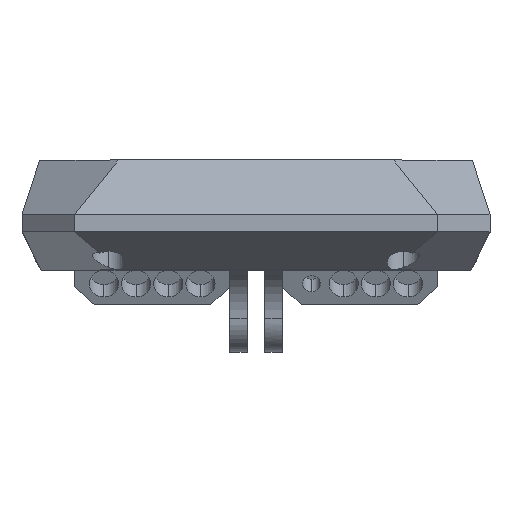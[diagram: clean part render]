
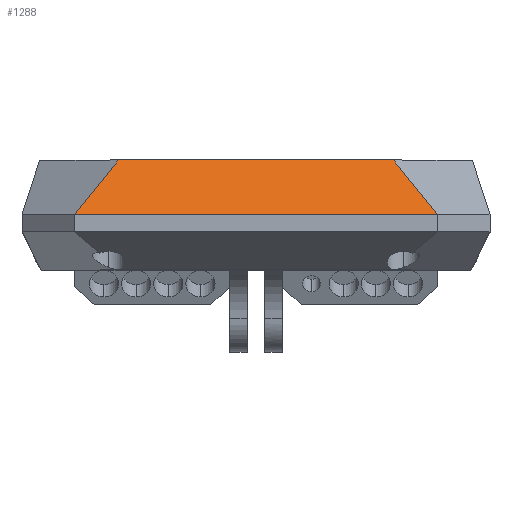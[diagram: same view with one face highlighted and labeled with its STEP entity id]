
A CAD part, top view. The second image highlights one B-rep face of the part: STEP entity #1288.
In plain terms, the highlighted planar face has unit normal (0, 0.73, 0.683).
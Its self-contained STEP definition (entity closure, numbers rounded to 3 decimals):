
#134 = VERTEX_POINT ( 'NONE', #3752 ) ;
#588 = CARTESIAN_POINT ( 'NONE',  ( 23.5, 12.3, 34.804 ) ) ;
#931 = VERTEX_POINT ( 'NONE', #7214 ) ;
#1134 = DIRECTION ( 'NONE',  ( 1., 0., 0. ) ) ;
#1288 = ADVANCED_FACE ( 'NONE', ( #2914 ), #5443, .F. ) ;
#1506 = CARTESIAN_POINT ( 'NONE',  ( -31.036, 3., 44.75 ) ) ;
#1976 = EDGE_LOOP ( 'NONE', ( #6376, #4044, #4994, #6399 ) ) ;
#2234 = CARTESIAN_POINT ( 'NONE',  ( 0., 23.925, 22.371 ) ) ;
#2383 = LINE ( 'NONE', #5911, #3887 ) ;
#2879 = VECTOR ( 'NONE', #2904, 1000. ) ;
#2904 = DIRECTION ( 'NONE',  ( 0.484, 0.598, -0.639 ) ) ;
#2914 = FACE_OUTER_BOUND ( 'NONE', #1976, .T. ) ;
#2976 = VECTOR ( 'NONE', #6953, 1000. ) ;
#3000 = CARTESIAN_POINT ( 'NONE',  ( 31.036, 3., 44.75 ) ) ;
#3672 = EDGE_CURVE ( 'NONE', #134, #6670, #2383, .T. ) ;
#3683 = LINE ( 'NONE', #5076, #6239 ) ;
#3752 = CARTESIAN_POINT ( 'NONE',  ( -23.5, 12.3, 34.804 ) ) ;
#3880 = EDGE_CURVE ( 'NONE', #6122, #134, #7943, .T. ) ;
#3887 = VECTOR ( 'NONE', #5933, 1000. ) ;
#4044 = ORIENTED_EDGE ( 'NONE', *, *, #3672, .F. ) ;
#4994 = ORIENTED_EDGE ( 'NONE', *, *, #3880, .F. ) ;
#5076 = CARTESIAN_POINT ( 'NONE',  ( 0., 3., 44.75 ) ) ;
#5443 = PLANE ( 'NONE',  #7497 ) ;
#5730 = LINE ( 'NONE', #3000, #2976 ) ;
#5911 = CARTESIAN_POINT ( 'NONE',  ( -23.5, 12.3, 34.804 ) ) ;
#5933 = DIRECTION ( 'NONE',  ( 1., 0., 0. ) ) ;
#6122 = VERTEX_POINT ( 'NONE', #1506 ) ;
#6239 = VECTOR ( 'NONE', #1134, 1000. ) ;
#6376 = ORIENTED_EDGE ( 'NONE', *, *, #7939, .T. ) ;
#6399 = ORIENTED_EDGE ( 'NONE', *, *, #8117, .T. ) ;
#6670 = VERTEX_POINT ( 'NONE', #588 ) ;
#6750 = CARTESIAN_POINT ( 'NONE',  ( -31.036, 3., 44.75 ) ) ;
#6953 = DIRECTION ( 'NONE',  ( -0.484, 0.598, -0.639 ) ) ;
#7214 = CARTESIAN_POINT ( 'NONE',  ( 31.036, 3., 44.75 ) ) ;
#7433 = DIRECTION ( 'NONE',  ( 0., -0.73, -0.683 ) ) ;
#7497 = AXIS2_PLACEMENT_3D ( 'NONE', #2234, #7433, #7992 ) ;
#7939 = EDGE_CURVE ( 'NONE', #931, #6670, #5730, .T. ) ;
#7943 = LINE ( 'NONE', #6750, #2879 ) ;
#7992 = DIRECTION ( 'NONE',  ( 0., 0.683, -0.73 ) ) ;
#8117 = EDGE_CURVE ( 'NONE', #6122, #931, #3683, .T. ) ;
